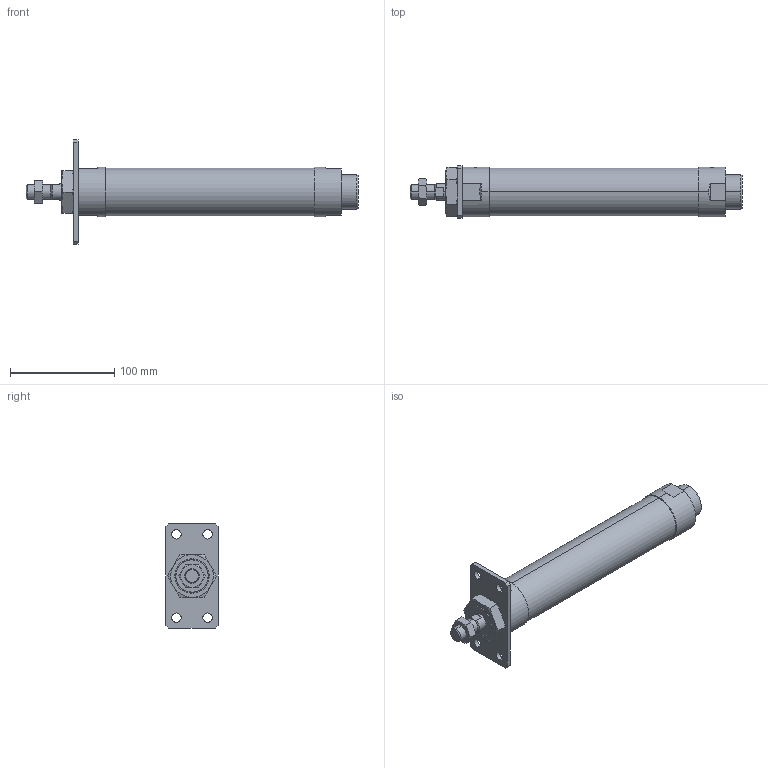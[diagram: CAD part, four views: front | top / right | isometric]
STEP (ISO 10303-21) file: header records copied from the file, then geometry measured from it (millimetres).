
FILE_DESCRIPTION (( 'STEP AP203' ), '1' );
FILE_NAME ('J#2-40-150-A.STEP', '2016-03-08T08:01:25', ( '' ), ( '' ), 'SwSTEP 2.0', 'SolidWorks 2014', '' );
FILE_SCHEMA (( 'CONFIG_CONTROL_DESIGN' ));
Length unit declared in the file: millimetre
Products named in the file (5): J#2-40-150-A; J#2-40-150; J#2-40-A
Assembly tree (4 placements, depth 2):
  J#2-40-150-A
    J#2-40-150
    (unnamed)
    (unnamed)
    J#2-40-A
Bounding box: 319 x 50 x 100 mm (x, y, z)
Volume: 484554.3 mm3; surface area: 62167.7 mm2
Topology: 4 solids, 4 shells, 114 faces, 264 edges, 161 vertices
Faces by surface type: plane 43, cylinder 32, torus 24, cone 15
Entity records: 4198 total; most frequent: CARTESIAN_POINT 1133, DIRECTION 537, ORIENTED_EDGE 520, EDGE_CURVE 260, AXIS2_PLACEMENT_3D 219, VERTEX_POINT 161, EDGE_LOOP 135, ADVANCED_FACE 114
